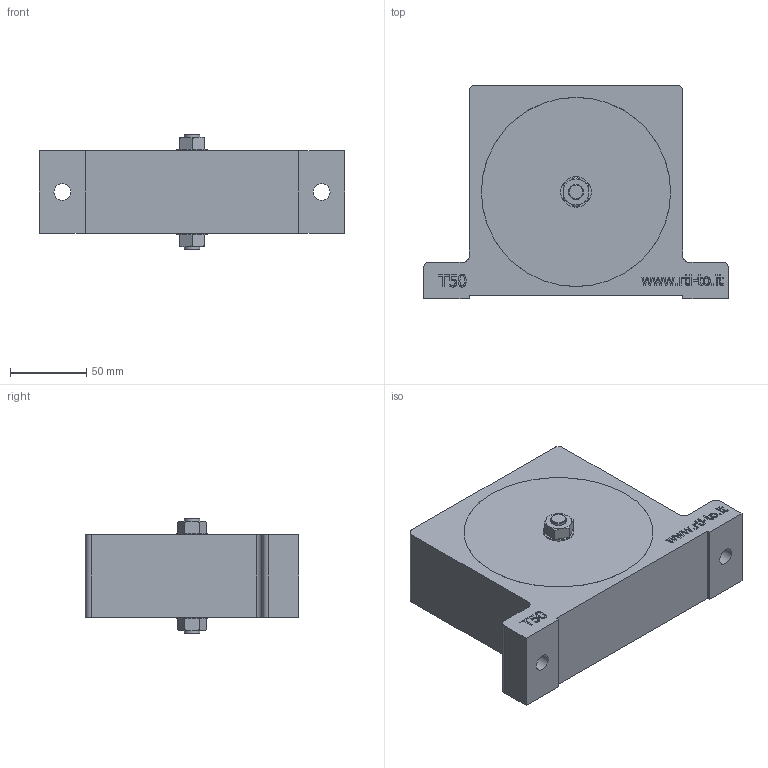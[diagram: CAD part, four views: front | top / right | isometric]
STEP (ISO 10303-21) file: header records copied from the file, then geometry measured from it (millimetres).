
FILE_DESCRIPTION((''),'2;1');
FILE_NAME('D:\UFFICIO TECNICO\PROGETTI PER PROTOTIPI\VIBRATORE - T50\VIBR. T50.stp','2015-09-14T13:10:49',('Piero'),(''),'Autodesk Inventor 2011','Autodesk Inventor 2011','');
FILE_SCHEMA(('CONFIG_CONTROL_DESIGN'));
Length unit declared in the file: millimetre
Products named in the file (1): T50
Bounding box: 200 x 140 x 76 mm (x, y, z)
Volume: 701100.8 mm3; surface area: 126575.7 mm2
Topology: 1 solids, 1 shells, 276 faces, 713 edges, 471 vertices
Faces by surface type: plane 186, bspline 52, cylinder 21, cone 17
Full cylindrical faces by diameter (mm): 4.5 x1, 10 x2, 11 x2, 14.95 x1, 15 x1, 18.631 x1, 20 x2, 111 x1, 123.9 x2, 124 x2
Entity records: 8547 total; most frequent: CARTESIAN_POINT 2229, ORIENTED_EDGE 1376, DIRECTION 1062, EDGE_CURVE 688, VECTOR 502, LINE 502, VERTEX_POINT 465, EDGE_LOOP 333
